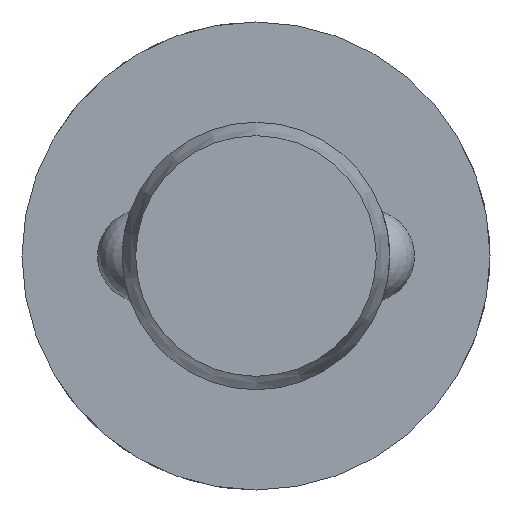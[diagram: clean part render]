
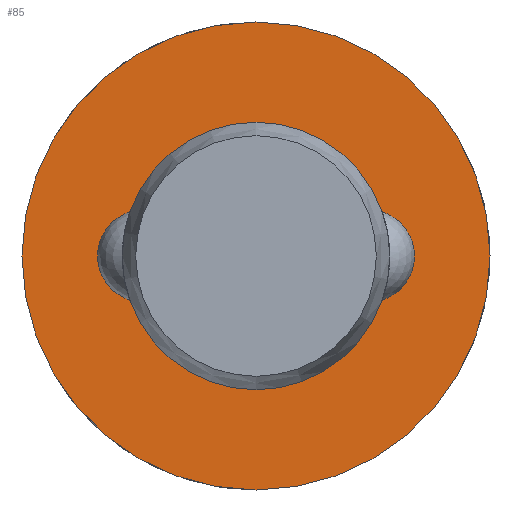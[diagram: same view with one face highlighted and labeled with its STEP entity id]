
A CAD part, left-side view. The second image highlights one B-rep face of the part: STEP entity #85.
In plain terms, the highlighted planar face has unit normal (-1, 0, 0).
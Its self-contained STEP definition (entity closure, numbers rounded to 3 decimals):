
#85 = ADVANCED_FACE( '', ( #130, #131 ), #132, .F. );
#130 = FACE_OUTER_BOUND( '', #200, .T. );
#131 = FACE_BOUND( '', #201, .T. );
#132 = PLANE( '', #202 );
#200 = EDGE_LOOP( '', ( #315 ) );
#201 = EDGE_LOOP( '', ( #316 ) );
#202 = AXIS2_PLACEMENT_3D( '', #317, #318, #319 );
#315 = ORIENTED_EDGE( '', *, *, #458, .F. );
#316 = ORIENTED_EDGE( '', *, *, #455, .T. );
#317 = CARTESIAN_POINT( '', ( 28.2, 4., 0. ) );
#318 = DIRECTION( '', ( 1., 0., 0. ) );
#319 = DIRECTION( '', ( 0., 0., -1. ) );
#455 = EDGE_CURVE( '', #528, #528, #529, .T. );
#458 = EDGE_CURVE( '', #534, #534, #535, .T. );
#528 = VERTEX_POINT( '', #732 );
#529 = CIRCLE( '', #733, 4. );
#534 = VERTEX_POINT( '', #820 );
#535 = CIRCLE( '', #821, 7. );
#732 = CARTESIAN_POINT( '', ( 28.2, 0., -4. ) );
#733 = AXIS2_PLACEMENT_3D( '', #898, #899, #900 );
#820 = CARTESIAN_POINT( '', ( 28.2, 0., -7. ) );
#821 = AXIS2_PLACEMENT_3D( '', #901, #902, #903 );
#898 = CARTESIAN_POINT( '', ( 28.2, 0., 0. ) );
#899 = DIRECTION( '', ( 1., 0., 0. ) );
#900 = DIRECTION( '', ( 0., 0., -1. ) );
#901 = CARTESIAN_POINT( '', ( 28.2, 0., 0. ) );
#902 = DIRECTION( '', ( 1., 0., 0. ) );
#903 = DIRECTION( '', ( 0., 0., -1. ) );
